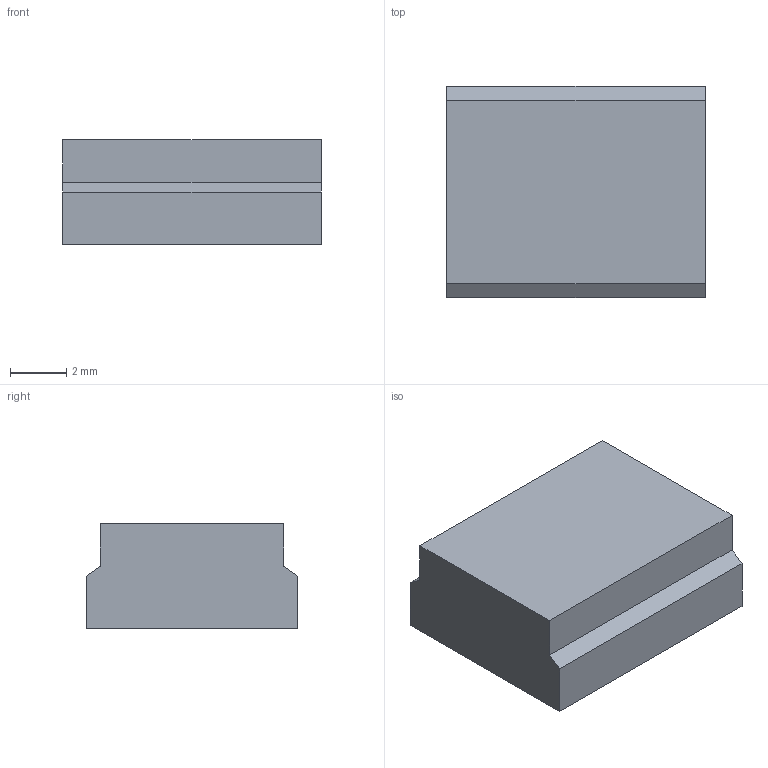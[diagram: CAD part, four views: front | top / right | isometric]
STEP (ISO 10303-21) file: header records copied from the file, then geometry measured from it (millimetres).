
FILE_DESCRIPTION(/* description */ ('STEP AP242 Edition 2','CAx-IF Rec.Pracs.---Representation and Presentation of Product Manufacturing Information (PMI)---4.0---2014-10-13','CAx-IF Rec.Pracs.---3D Tessellated Geometry---0.4---2014-09-14','2;1','CAx-IF Rec.Pracs.---User Defined Attributes---1.5---2016-08-15'),/* implementation_level */ '2;1');
FILE_NAME(/* name */ 'Drone Layout - Surface 68',/* time_stamp */ '2026-10-04T22:23:00Z',/* author */ (''),/* organization */ (''),/* preprocessor_version */ 'ST-DEVELOPER v20',/* originating_system */ 'ONSHAPE BY PTC INC, 1.221',/* authorisation */ ' ');
FILE_SCHEMA (('AP242_MANAGED_MODEL_BASED_3D_ENGINEERING_MIM_LF { 1 0 10303 442 3 1 4 }'));
Length unit declared in the file: metre
Products named in the file (1): USB:1__case
Bounding box: 9.15 x 7.5 x 3.7 mm (x, y, z)
Volume: 77 mm3; surface area: 414.1 mm2
Topology: 1 solids, 1 shells, 59 faces, 168 edges, 112 vertices
Faces by surface type: plane 59
Entity records: 1915 total; most frequent: CARTESIAN_POINT 340, ORIENTED_EDGE 336, DIRECTION 288, EDGE_CURVE 168, LINE 168, VECTOR 168, VERTEX_POINT 112, EDGE_LOOP 70
